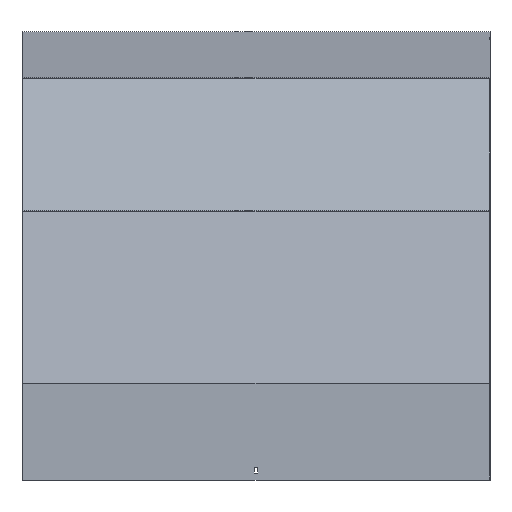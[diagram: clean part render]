
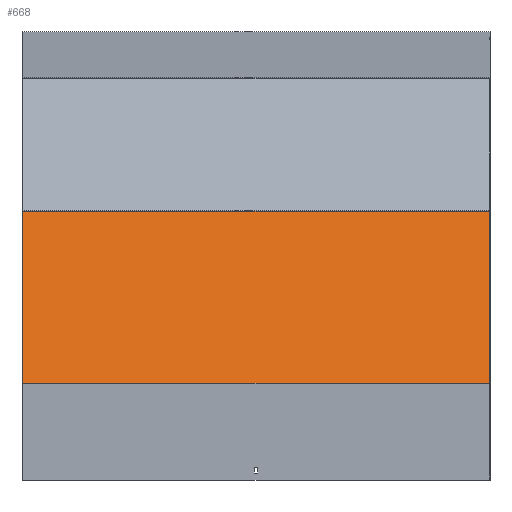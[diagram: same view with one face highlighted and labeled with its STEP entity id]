
A CAD part, top view. The second image highlights one B-rep face of the part: STEP entity #668.
In plain terms, the highlighted planar face has unit normal (0, 0.259, 0.966).
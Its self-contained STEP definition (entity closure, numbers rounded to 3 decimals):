
#1 = VECTOR ( 'NONE', #685, 1000. ) ;
#24 = VERTEX_POINT ( 'NONE', #186 ) ;
#52 = CARTESIAN_POINT ( 'NONE',  ( 401.5, -292.828, 691.748 ) ) ;
#87 = ORIENTED_EDGE ( 'NONE', *, *, #278, .F. ) ;
#99 = DIRECTION ( 'NONE',  ( 0., -0.259, -0.966 ) ) ;
#118 = VERTEX_POINT ( 'NONE', #276 ) ;
#135 = EDGE_LOOP ( 'NONE', ( #336, #87, #723, #788 ) ) ;
#177 = FACE_OUTER_BOUND ( 'NONE', #135, .T. ) ;
#184 = EDGE_CURVE ( 'NONE', #464, #118, #385, .T. ) ;
#186 = CARTESIAN_POINT ( 'NONE',  ( 401.5, -287.651, 690.361 ) ) ;
#276 = CARTESIAN_POINT ( 'NONE',  ( -401.5, -584.183, 769.816 ) ) ;
#278 = EDGE_CURVE ( 'NONE', #718, #118, #991, .T. ) ;
#295 = CARTESIAN_POINT ( 'NONE',  ( 401.5, -584.183, 769.816 ) ) ;
#321 = VECTOR ( 'NONE', #651, 1000. ) ;
#336 = ORIENTED_EDGE ( 'NONE', *, *, #184, .T. ) ;
#337 = CARTESIAN_POINT ( 'NONE',  ( 401.5, -292.828, 691.748 ) ) ;
#342 = AXIS2_PLACEMENT_3D ( 'NONE', #337, #99, #628 ) ;
#383 = CARTESIAN_POINT ( 'NONE',  ( -401.5, -287.651, 690.361 ) ) ;
#385 = LINE ( 'NONE', #831, #981 ) ;
#397 = DIRECTION ( 'NONE',  ( 0., -0.966, 0.259 ) ) ;
#402 = DIRECTION ( 'NONE',  ( 0., -0.966, 0.259 ) ) ;
#455 = CARTESIAN_POINT ( 'NONE',  ( 401.5, -584.183, 769.816 ) ) ;
#464 = VERTEX_POINT ( 'NONE', #383 ) ;
#511 = LINE ( 'NONE', #52, #861 ) ;
#628 = DIRECTION ( 'NONE',  ( 0., 0.966, -0.259 ) ) ;
#651 = DIRECTION ( 'NONE',  ( -1., 0., 0. ) ) ;
#668 = ADVANCED_FACE ( 'NONE', ( #177 ), #797, .F. ) ;
#685 = DIRECTION ( 'NONE',  ( -1., 0., 0. ) ) ;
#718 = VERTEX_POINT ( 'NONE', #455 ) ;
#723 = ORIENTED_EDGE ( 'NONE', *, *, #994, .F. ) ;
#764 = CARTESIAN_POINT ( 'NONE',  ( 401.5, -287.651, 690.361 ) ) ;
#788 = ORIENTED_EDGE ( 'NONE', *, *, #966, .T. ) ;
#797 = PLANE ( 'NONE',  #342 ) ;
#831 = CARTESIAN_POINT ( 'NONE',  ( -401.5, -292.828, 691.748 ) ) ;
#861 = VECTOR ( 'NONE', #397, 1000. ) ;
#966 = EDGE_CURVE ( 'NONE', #24, #464, #1072, .T. ) ;
#981 = VECTOR ( 'NONE', #402, 1000. ) ;
#991 = LINE ( 'NONE', #295, #321 ) ;
#994 = EDGE_CURVE ( 'NONE', #24, #718, #511, .T. ) ;
#1072 = LINE ( 'NONE', #764, #1 ) ;
